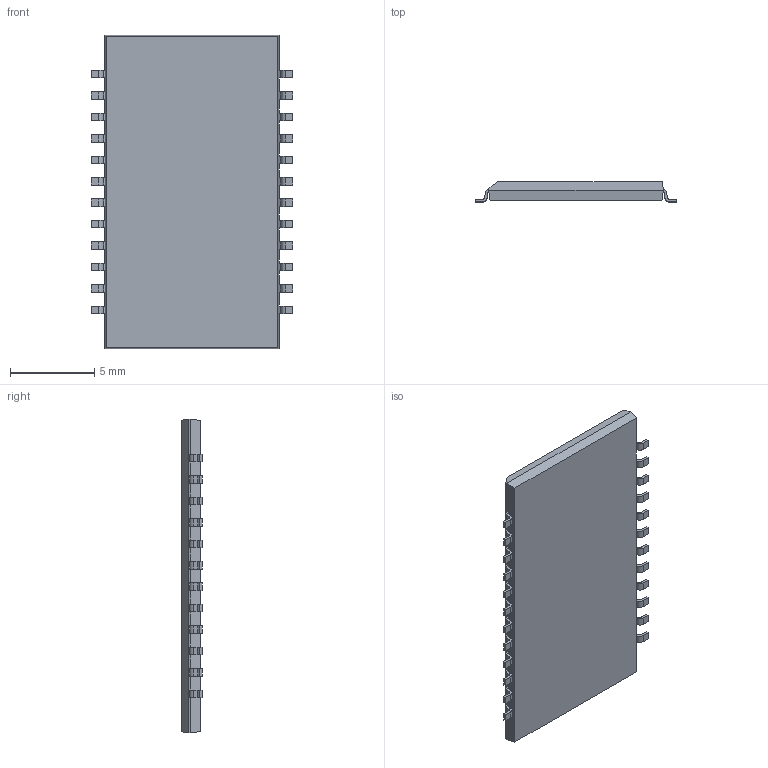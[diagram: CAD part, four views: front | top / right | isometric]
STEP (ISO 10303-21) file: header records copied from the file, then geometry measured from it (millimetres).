
FILE_DESCRIPTION (( 'STEP AP214' ), '1' );
FILE_NAME ('TSOP127P1176X120-24_MS-024.AB.STEP', '2014-12-19T14:13:48', ( 'Tester2' ), ( '' ), 'SwSTEP 2.0', 'SolidWorks 2012', '' );
FILE_SCHEMA (( 'AUTOMOTIVE_DESIGN' ));
Length unit declared in the file: millimetre
Products named in the file (1): TSOP127P1176X120-24_MS-024.AB
Bounding box: 11.96 x 1.2 x 18.61 mm (x, y, z)
Volume: 209.8 mm3; surface area: 471.8 mm2
Topology: 1 solids, 1 shells, 278 faces, 821 edges, 546 vertices
Faces by surface type: plane 180, cylinder 98
Entity records: 12240 total; most frequent: CARTESIAN_POINT 1646, ORIENTED_EDGE 1642, DIRECTION 1575, EDGE_CURVE 821, VECTOR 625, LINE 625, VERTEX_POINT 546, AXIS2_PLACEMENT_3D 475
